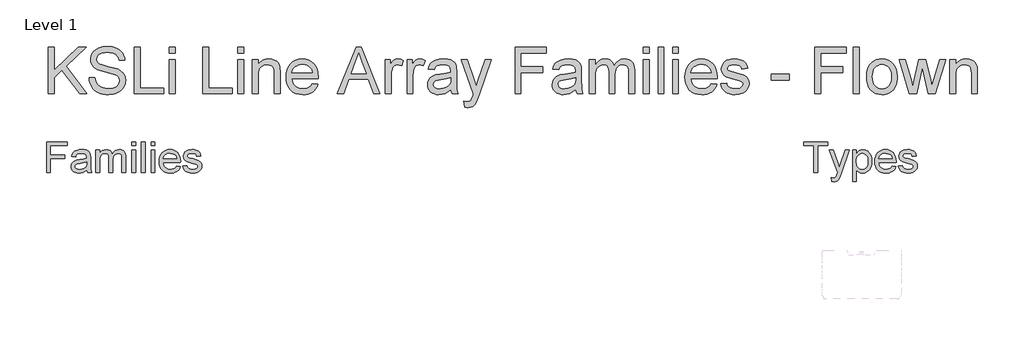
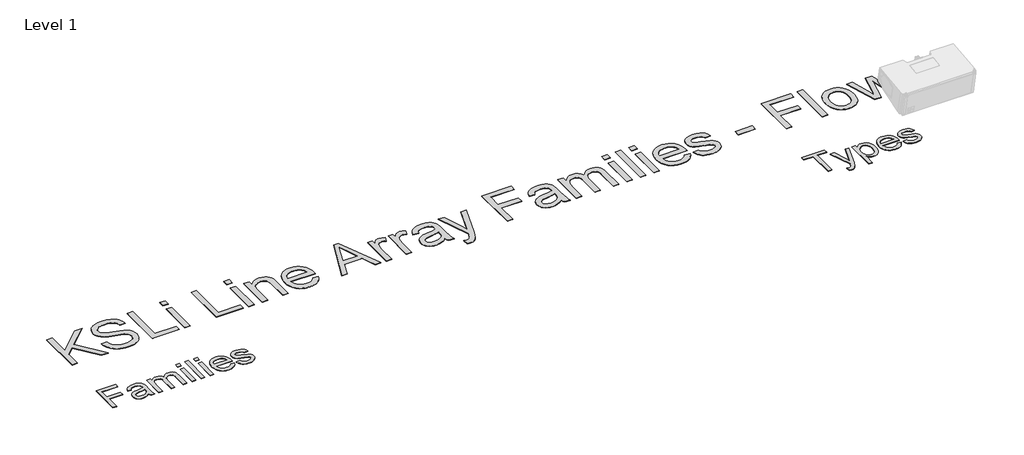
# One storey, part 43 of 52: 3 proxies.
"""IFC4 building model written with IfcOpenShell, lengths in millimetres."""

from ifc_helpers import new_model, si_unit, origin, origin_with_axes, place, context, project, spatial, polyline, outline, extrude, element, save

model = new_model("IFC4")

# Units and contexts
model_context = context("Model", 3, world=origin())
ifc_project = project(units=[si_unit("LENGTHUNIT", "METRE", prefix="MILLI")], contexts=[model_context])

# Site, building, storey
site = spatial("IfcSite", under=ifc_project)
building = spatial("IfcBuilding", under=site)
storey = spatial("IfcBuildingStorey", under=building, Name="Level 1", Elevation=0.0)

# Proxies
placement = place(None, origin())
element("IfcBuildingElementProxy", 1, Name="400mm Arial", ObjectType="400mm Arial", at=placement, inside=storey, context=model_context, shape_type="SweptSolid", body=[
    extrude(outline(polyline([(5943.279109, -3067.5695164), (5943.279109, -2675.8119407), (6206.4912302, -2675.8119407), (6206.4912302, -2724.7816376), (5992.2488059, -2724.7816376), (5992.2488059, -2841.0846679), (6175.8851696, -2841.0846679), (6175.8851696, -2890.0543649), (5992.2488059, -2890.0543649), (5992.2488059, -3067.5695164), (5943.279109, -3067.5695164)])), origin_with_axes(), (0.0, 0.0, 1.0), 5.0),
    extrude(outline(polyline([(6451.339715, -3030.8422437), (6427.9428164, -3050.90356), (6403.8524991, -3064.0306907), (6378.5188107, -3071.2757191), (6351.3917984, -3073.6907285), (6329.5879691, -3072.2381362), (6310.4681478, -3067.8803592), (6294.0323346, -3060.6173976), (6280.2805294, -3050.4492513), (6269.4219534, -3038.0215169), (6261.6658277, -3023.979791), (6257.0121523, -3008.3240737), (6255.4609271, -2991.0543649), (6257.8042037, -2970.7539388), (6264.8340332, -2952.3185695), (6275.6776648, -2936.5373195), (6289.4623476, -2924.1992513), (6323.7506999, -2908.1310695), (6366.120965, -2900.7664861), (6416.1905673, -2893.019327), (6451.0527832, -2883.9331528), (6451.339715, -2873.0297437), (6447.9682662, -2851.1751035), (6437.8539196, -2836.8763346), (6415.2341279, -2826.2598573), (6383.7194499, -2822.7210316), (6354.5480484, -2825.0762636), (6334.1758893, -2832.1419596), (6320.2836071, -2845.2093128), (6310.5518362, -2865.5695164), (6261.5821393, -2859.4483043), (6270.0824944, -2832.6680013), (6282.7672718, -2811.6263346), (6300.8200654, -2795.5342418), (6325.4244688, -2783.6026604), (6355.5164432, -2776.214166), (6390.0319499, -2773.7513346), (6423.1367084, -2775.9272342), (6449.3790143, -2782.4549331), (6469.1653542, -2792.2703924), (6482.902215, -2804.3095732), (6492.0123003, -2819.1941613), (6497.9183135, -2837.5458422), (6500.309412, -2880.394327), (6500.309412, -2941.3195164), (6502.7961544, -3026.3948005), (6512.5518362, -3067.5695164), (6463.5821393, -3067.5695164), (6455.7393362, -3050.5448952), (6451.339715, -3030.8422437)]), holes=[polyline([(6451.339715, -2932.9028498), (6418.4381999, -2941.0564956), (6372.3378211, -2947.9189482), (6330.2066658, -2955.8573952), (6319.2434792, -2961.2851888), (6311.1256999, -2968.769327), (6306.1043931, -2977.7359464), (6304.4306241, -2987.6111831), (6308.0770493, -3002.1729729), (6319.0163249, -3014.1045543), (6337.009341, -3022.0669123), (6361.8169878, -3024.7210316), (6388.1190711, -3021.7919359), (6411.3605484, -3013.004649), (6430.2024044, -3000.0568507), (6443.3056241, -2984.646221), (6449.1159934, -2968.769327), (6451.0527832, -2946.771221), (6451.339715, -2932.9028498)])]), origin_with_axes(), (0.0, 0.0, 1.0), 5.0),
    extrude(outline(polyline([(6567.6427453, -3067.5695164), (6567.6427453, -2779.8725467), (6616.6124423, -2779.8725467), (6616.6124423, -2827.2162967), (6631.341609, -2805.469256), (6650.279109, -2788.4326793), (6672.7793457, -2777.4216708), (6698.1967226, -2773.7513346), (6725.4313343, -2777.4934037), (6747.2620635, -2788.7196111), (6763.5693552, -2806.6887162), (6774.2336544, -2830.6594785), (6792.0832046, -2805.7621656), (6812.4434082, -2787.9783706), (6835.3142652, -2777.3080936), (6860.6957756, -2773.7513346), (6880.2997943, -2775.2308268), (6897.5067368, -2779.6693034), (6912.316603, -2787.0667643), (6924.7293931, -2797.4232096), (6934.5418635, -2810.8581942), (6941.5507709, -2827.4912731), (6945.7561154, -2847.3224461), (6947.1578968, -2870.3517134), (6947.1578968, -3067.5695164), (6898.1881999, -3067.5695164), (6898.1881999, -2891.3933801), (6893.6451128, -2850.505596), (6887.2608798, -2839.2315666), (6877.1943552, -2830.3725467), (6864.2465569, -2824.6339104), (6849.2185029, -2822.7210316), (6822.6892652, -2827.6227835), (6801.0617794, -2842.3280392), (6792.6720126, -2853.6080463), (6786.679322, -2867.84106), (6781.8851696, -2905.1661073), (6781.8851696, -3067.5695164), (6732.9154726, -3067.5695164), (6732.9154726, -2885.9416755), (6730.0820209, -2858.2527551), (6721.5816658, -2838.5022816), (6706.6253448, -2826.6663441), (6684.4239953, -2822.7210316), (6665.5582283, -2825.3512399), (6648.1749423, -2833.2418649), (6633.8283514, -2846.2016187), (6624.0726696, -2864.0392134), (6618.4774991, -2888.7870827), (6616.6124423, -2922.4776604), (6616.6124423, -3067.5695164), (6567.6427453, -3067.5695164)])), origin_with_axes(), (0.0, 0.0, 1.0), 5.0),
    extrude(outline(polyline([(7020.6124423, -2724.7816376), (7020.6124423, -2675.8119407), (7069.5821393, -2675.8119407), (7069.5821393, -2724.7816376), (7020.6124423, -2724.7816376)])), origin_with_axes(), (0.0, 0.0, 1.0), 5.0),
    extrude(outline(polyline([(7020.6124423, -3067.5695164), (7020.6124423, -2779.8725467), (7069.5821393, -2779.8725467), (7069.5821393, -3067.5695164), (7020.6124423, -3067.5695164)])), origin_with_axes(), (0.0, 0.0, 1.0), 5.0),
    extrude(outline(polyline([(7143.0366847, -3067.5695164), (7143.0366847, -2675.8119407), (7192.0063817, -2675.8119407), (7192.0063817, -3067.5695164), (7143.0366847, -3067.5695164)])), origin_with_axes(), (0.0, 0.0, 1.0), 5.0),
    extrude(outline(polyline([(7265.4609271, -2724.7816376), (7265.4609271, -2675.8119407), (7314.4306241, -2675.8119407), (7314.4306241, -2724.7816376), (7265.4609271, -2724.7816376)])), origin_with_axes(), (0.0, 0.0, 1.0), 5.0),
    extrude(outline(polyline([(7265.4609271, -3067.5695164), (7265.4609271, -2779.8725467), (7314.4306241, -2779.8725467), (7314.4306241, -3067.5695164), (7265.4609271, -3067.5695164)])), origin_with_axes(), (0.0, 0.0, 1.0), 5.0),
    extrude(outline(polyline([(7589.3113059, -2981.8725467), (7637.3245635, -2987.9937589), (7629.9629691, -3007.2241684), (7620.024966, -3024.1710789), (7607.5105543, -3038.8344904), (7592.419734, -3051.2144028), (7574.9079264, -3061.0477953), (7555.1305531, -3068.0716471), (7508.779109, -3073.6907285), (7478.394225, -3071.2667525), (7451.3210124, -3063.9948242), (7427.5594712, -3051.8749437), (7407.1096014, -3034.9071111), (7390.6648216, -3013.5635683), (7378.9185503, -2988.3165571), (7371.8707875, -2959.1660777), (7369.5215332, -2926.1121301), (7371.8946985, -2891.937355), (7379.0141942, -2861.8154918), (7390.8800204, -2835.7465406), (7407.4921771, -2813.7305013), (7427.8882472, -2796.2396159), (7451.1058135, -2783.7461263), (7477.144876, -2776.2500325), (7506.0054347, -2773.7513346), (7533.9364539, -2776.2440548), (7559.1954205, -2783.7222153), (7581.7823346, -2796.1858161), (7601.6971961, -2813.6348573), (7617.9536769, -2835.6030747), (7629.5654489, -2861.6242039), (7636.5325121, -2891.6982451), (7638.8548665, -2925.8251982), (7638.5679347, -2939.0240619), (7418.4912302, -2939.0240619), (7421.3276708, -2958.5653142), (7426.9676743, -2975.6796017), (7435.4112408, -2990.3669241), (7446.6583703, -3002.6272816), (7475.0765758, -3019.1975941), (7509.7355484, -3024.7210316), (7535.7985218, -3022.1625562), (7557.7488059, -3014.4871301), (7575.5864006, -3001.2165335), (7589.3113059, -2981.8725467)]), holes=[polyline([(7418.4912302, -2890.0543649), (7589.8851696, -2890.0543649), (7583.2618268, -2864.1826793), (7570.278162, -2845.675577), (7556.923877, -2835.6329634), (7541.7284461, -2828.4596679), (7505.8141468, -2822.7210316), (7472.8050323, -2827.2999852), (7445.5106431, -2841.036846), (7426.5372766, -2862.4491329), (7418.4912302, -2890.0543649)])]), origin_with_axes(), (0.0, 0.0, 1.0), 5.0),
    extrude(outline(polyline([(7669.4609271, -2981.8725467), (7718.4306241, -2975.7513346), (7726.1538722, -2996.6973573), (7741.0982378, -3012.0960316), (7763.3593646, -3021.5647816), (7793.0328968, -3024.7210316), (7822.3477643, -3021.8278024), (7842.9590332, -3013.1481149), (7855.1536355, -3000.5709369), (7859.2185029, -2985.9852361), (7855.1297245, -2973.503702), (7842.8633893, -2963.9871301), (7792.4590332, -2950.0231149), (7718.7175559, -2926.0643081), (7700.0550323, -2914.0251272), (7686.5333703, -2898.0884558), (7678.319947, -2879.2705107), (7675.5821393, -2858.5875089), (7677.7819499, -2839.6141424), (7684.3813817, -2822.099346), (7694.7826601, -2806.7365382), (7708.3880105, -2794.2191376), (7739.5201128, -2779.7290808), (7781.6512681, -2773.7513346), (7813.5246109, -2776.1543886), (7841.2374423, -2783.3635505), (7863.5224802, -2794.6734464), (7879.1124423, -2809.378702), (7889.4419878, -2828.5672674), (7895.9457756, -2853.3270922), (7846.9760787, -2859.4483043), (7840.7950891, -2844.0376746), (7828.5646203, -2832.4288914), (7810.1651175, -2825.1479965), (7785.4770256, -2822.7210316), (7757.3577075, -2825.0403971), (7738.6114953, -2831.9984937), (7728.066751, -2842.0411073), (7724.5518362, -2853.614024), (7730.3861165, -2867.864971), (7748.654109, -2878.6727361), (7790.8330862, -2889.0979255), (7862.7095067, -2912.1481149), (7881.6948287, -2923.1710789), (7896.0892415, -2938.2589104), (7905.1634603, -2957.4594312), (7908.1881999, -2980.8204634), (7904.6374186, -3004.9705581), (7893.9850749, -3027.6859937), (7876.6376554, -3047.1854018), (7853.0016468, -3061.6874142), (7824.4519309, -3070.6899), (7792.3633893, -3073.6907285), (7766.0075062, -3072.244114), (7742.9872056, -3067.9042702), (7723.3024873, -3060.6711973), (7706.9533514, -3050.5448952), (7693.5990664, -3037.5731859), (7682.8989006, -3021.8038914), (7674.8528542, -3003.2370117), (7669.4609271, -2981.8725467)])), origin_with_axes(), (0.0, 0.0, 1.0), 5.0),
])
element("IfcBuildingElementProxy", 2, Name="400mm Arial", ObjectType="400mm Arial", at=placement, inside=storey, context=model_context, shape_type="SweptSolid", body=[
    extrude(outline(polyline([(15654.0416973, -3067.5695164), (15654.0416973, -2724.7816376), (15525.4962428, -2724.7816376), (15525.4962428, -2675.8119407), (15831.5568488, -2675.8119407), (15831.5568488, -2724.7816376), (15703.0113943, -2724.7816376), (15703.0113943, -3067.5695164), (15654.0416973, -3067.5695164)])), origin_with_axes(), (0.0, 0.0, 1.0), 5.0),
    extrude(outline(polyline([(15880.5265458, -3177.7513346), (15874.4053337, -3130.5988725), (15899.2727579, -3134.9028498), (15912.3520666, -3133.5518791), (15922.5142352, -3129.4989672), (15936.7651821, -3114.4350467), (15950.1553337, -3078.3772816), (15953.9810912, -3066.5174331), (15849.9204852, -2779.8725467), (15901.5682125, -2779.8725467), (15956.7547655, -2939.5979255), (15975.9791973, -3003.488077), (15995.2036291, -2947.0581528), (16051.9204852, -2779.8725467), (16103.1856367, -2779.8725467), (16003.0464321, -3074.4558801), (15977.0312806, -3138.3460316), (15963.7128621, -3158.7421017), (15948.6250306, -3172.8734937), (15931.0982787, -3181.1227835), (15910.4630988, -3183.8725467), (15880.5265458, -3177.7513346)])), origin_with_axes(), (0.0, 0.0, 1.0), 5.0),
    extrude(outline(polyline([(16143.738667, -3177.7513346), (16143.738667, -2779.8725467), (16192.708364, -2779.8725467), (16192.708364, -2827.8858043), (16208.6809018, -2804.2019738), (16226.5663185, -2787.284952), (16247.4166973, -2777.134739), (16272.2841215, -2773.7513346), (16305.4008356, -2778.4857096), (16334.3570382, -2792.6888346), (16357.9332693, -2815.4999142), (16374.9100685, -2846.0581528), (16385.167881, -2882.1398289), (16388.5871518, -2921.521221), (16384.7255278, -2963.4013109), (16373.1406556, -3000.8578687), (16354.2031556, -3031.989971), (16328.2836481, -3054.8966945), (16298.0960297, -3068.99222), (16266.3541973, -3073.6907285), (16243.8420051, -3070.546434), (16223.7448223, -3061.1135505), (16206.5408687, -3046.874559), (16192.708364, -3029.3119407), (16192.708364, -3177.7513346), (16143.738667, -3177.7513346)]), holes=[polyline([(16192.708364, -2926.0164861), (16198.0046471, -2969.9170543), (16204.625001, -2986.9177645), (16213.8934965, -3000.6187589), (16237.3382172, -3018.6954634), (16250.7552686, -3023.2146395), (16265.302114, -3024.7210316), (16280.0581805, -3023.1608398), (16293.7203195, -3018.4802645), (16317.7628147, -2999.7579634), (16327.3242198, -2985.5608161), (16334.1537948, -2967.9324426), (16339.6174549, -2922.3820164), (16334.2853053, -2878.7205581), (16327.6201182, -2861.5883375), (16318.2888564, -2847.5884558), (16294.8800022, -2828.9378876), (16281.6153834, -2824.2752456), (16267.3106367, -2822.7210316), (16253.0507231, -2824.3738784), (16239.6336717, -2829.3324189), (16215.3281556, -2849.1665808), (16205.4319968, -2863.8867809), (16198.3633119, -2881.6018318), (16194.1221009, -2902.3117335), (16192.708364, -2926.0164861)])]), origin_with_axes(), (0.0, 0.0, 1.0), 5.0),
    extrude(outline(polyline([(16645.1041973, -2981.8725467), (16693.1174549, -2987.9937589), (16685.7558604, -3007.2241684), (16675.8178573, -3024.1710789), (16663.3034456, -3038.8344904), (16648.2126253, -3051.2144028), (16630.7008178, -3061.0477953), (16610.9234445, -3068.0716471), (16564.5720003, -3073.6907285), (16534.1871163, -3071.2667525), (16507.1139037, -3063.9948242), (16483.3523625, -3051.8749437), (16462.9024928, -3034.9071111), (16446.4577129, -3013.5635683), (16434.7114416, -2988.3165571), (16427.6636788, -2959.1660777), (16425.3144246, -2926.1121301), (16427.6875898, -2891.937355), (16434.8070856, -2861.8154918), (16446.6729118, -2835.7465406), (16463.2850685, -2813.7305013), (16483.6811386, -2796.2396159), (16506.8987049, -2783.7461263), (16532.9377674, -2776.2500325), (16561.7983261, -2773.7513346), (16589.7293453, -2776.2440548), (16614.9883119, -2783.7222153), (16637.5752259, -2796.1858161), (16657.4900875, -2813.6348573), (16673.7465683, -2835.6030747), (16685.3583403, -2861.6242039), (16692.3254035, -2891.6982451), (16694.6477579, -2925.8251982), (16694.3608261, -2939.0240619), (16474.2841215, -2939.0240619), (16477.1205621, -2958.5653142), (16482.7605657, -2975.6796017), (16491.2041322, -2990.3669241), (16502.4512617, -3002.6272816), (16530.8694672, -3019.1975941), (16565.5284397, -3024.7210316), (16591.5914132, -3022.1625562), (16613.5416973, -3014.4871301), (16631.379292, -3001.2165335), (16645.1041973, -2981.8725467)]), holes=[polyline([(16474.2841215, -2890.0543649), (16645.6780609, -2890.0543649), (16639.0547181, -2864.1826793), (16626.0710534, -2845.675577), (16612.7167683, -2835.6329634), (16597.5213375, -2828.4596679), (16561.6070382, -2822.7210316), (16528.5979236, -2827.2999852), (16501.3035344, -2841.036846), (16482.3301679, -2862.4491329), (16474.2841215, -2890.0543649)])]), origin_with_axes(), (0.0, 0.0, 1.0), 5.0),
    extrude(outline(polyline([(16725.2538185, -2981.8725467), (16774.2235155, -2975.7513346), (16781.9467636, -2996.6973573), (16796.8911291, -3012.0960316), (16819.152256, -3021.5647816), (16848.8257882, -3024.7210316), (16878.1406556, -3021.8278024), (16898.7519246, -3013.1481149), (16910.9465268, -3000.5709369), (16915.0113943, -2985.9852361), (16910.9226159, -2973.503702), (16898.6562806, -2963.9871301), (16848.2519246, -2950.0231149), (16774.5104473, -2926.0643081), (16755.8479236, -2914.0251272), (16742.3262617, -2898.0884558), (16734.1128384, -2879.2705107), (16731.3750306, -2858.5875089), (16733.5748412, -2839.6141424), (16740.1742731, -2822.099346), (16750.5755515, -2806.7365382), (16764.1809018, -2794.2191376), (16795.3130041, -2779.7290808), (16837.4441594, -2773.7513346), (16869.3175022, -2776.1543886), (16897.0303337, -2783.3635505), (16919.3153715, -2794.6734464), (16934.9053337, -2809.378702), (16945.2348791, -2828.5672674), (16951.738667, -2853.3270922), (16902.76897, -2859.4483043), (16896.5879804, -2844.0376746), (16884.3575117, -2832.4288914), (16865.9580089, -2825.1479965), (16841.269917, -2822.7210316), (16813.1505988, -2825.0403971), (16794.4043867, -2831.9984937), (16783.8596424, -2842.0411073), (16780.3447276, -2853.614024), (16786.1790079, -2867.864971), (16804.4470003, -2878.6727361), (16846.6259776, -2889.0979255), (16918.5023981, -2912.1481149), (16937.48772, -2923.1710789), (16951.8821329, -2938.2589104), (16960.9563517, -2957.4594312), (16963.9810912, -2980.8204634), (16960.43031, -3004.9705581), (16949.7779662, -3027.6859937), (16932.4305467, -3047.1854018), (16908.7945382, -3061.6874142), (16880.2448223, -3070.6899), (16848.1562806, -3073.6907285), (16821.8003976, -3072.244114), (16798.7800969, -3067.9042702), (16779.0953786, -3060.6711973), (16762.7462428, -3050.5448952), (16749.3919577, -3037.5731859), (16738.691792, -3021.8038914), (16730.6457456, -3003.2370117), (16725.2538185, -2981.8725467)])), origin_with_axes(), (0.0, 0.0, 1.0), 5.0),
])
element("IfcBuildingElementProxy", 3, Name="600mm Arial", ObjectType="600mm Arial", at=placement, inside=storey, context=model_context, shape_type="SweptSolid", body=[
    extrude(outline(polyline([(5965.0460087, -2067.5695164), (5965.0460087, -1476.8002857), (6038.8921626, -1476.8002857), (6038.8921626, -1765.982978), (6341.776778, -1476.8002857), (6445.0460087, -1476.8002857), (6190.7671626, -1719.684901), (6454.276778, -2067.5695164), (6363.9883164, -2067.5695164), (6138.4113933, -1769.5887472), (6038.8921626, -1864.4925934), (6038.8921626, -2067.5695164), (5965.0460087, -2067.5695164)])), origin_with_axes(), (0.0, 0.0, 1.0), 5.0),
    extrude(outline(polyline([(6481.9690857, -1864.4925934), (6555.8152395, -1864.4925934), (6564.2887972, -1905.4721607), (6579.6133164, -1938.4108626), (6603.5195664, -1964.5526895), (6637.7383164, -1985.1416318), (6679.5652395, -1998.5010068), (6726.2960087, -2002.9541318), (6767.4378357, -1999.5827376), (6803.4594703, -1989.4685549), (6832.6481722, -1973.4589395), (6853.291201, -1952.4012472), (6865.5688453, -1928.2245645), (6869.6613933, -1902.857978), (6866.5964895, -1878.1404299), (6857.401778, -1856.7762472), (6838.7238933, -1838.5490837), (6807.2094703, -1823.2425934), (6699.6854318, -1795.045478), (6629.1024991, -1776.3856222), (6583.9402395, -1758.6272087), (6547.1794222, -1733.7834587), (6521.1277395, -1703.6752857), (6505.604903, -1668.951728), (6500.4306241, -1630.2618241), (6502.0306842, -1608.271139), (6506.8308645, -1587.0106222), (6514.831165, -1566.4802736), (6526.0315857, -1546.6800934), (6540.3059246, -1528.4168722), (6557.5279799, -1512.497401), (6577.6977515, -1498.9216799), (6600.8152395, -1487.6897087), (6652.7743741, -1472.5995645), (6710.2863933, -1467.5695164), (6772.5940857, -1472.8339395), (6827.1133164, -1488.6272087), (6850.9654799, -1500.3910309), (6871.8969703, -1514.6248049), (6889.9077876, -1531.3285309), (6904.9979318, -1550.5022087), (6917.0502155, -1571.5869443), (6925.947451, -1594.0238434), (6931.6896385, -1617.8129059), (6934.276778, -1642.9541318), (6860.4306241, -1642.9541318), (6855.4907203, -1619.3904299), (6846.8729318, -1598.8916318), (6834.5772587, -1581.4577376), (6818.603701, -1567.0887472), (6798.6547828, -1555.856776), (6774.433028, -1547.8339395), (6745.9384366, -1543.0202376), (6713.1710087, -1541.4156703), (6679.3579078, -1543.0022087), (6650.4666818, -1547.7618241), (6626.4973308, -1555.6945164), (6607.4498549, -1566.8002857), (6592.9366337, -1580.1506462), (6582.5700472, -1594.8171126), (6576.3500953, -1610.7996847), (6574.276778, -1628.0983626), (6580.1541818, -1656.4757664), (6597.7863933, -1679.3002857), (6613.9762972, -1689.450526), (6639.4690857, -1699.7089395), (6718.3633164, -1720.5502857), (6799.7815857, -1740.3459587), (6849.0363933, -1757.6175934), (6891.1337491, -1784.4084587), (6907.40929, -1800.1566559), (6920.5027395, -1817.4733626), (6930.5673429, -1836.2684347), (6937.7563453, -1856.451728), (6943.5075472, -1900.982978), (6941.8534006, -1924.0824371), (6936.8909607, -1946.5058145), (6928.6202275, -1968.2531102), (6917.041201, -1989.3243241), (6902.3567058, -2008.903651), (6884.7695664, -2026.1752857), (6864.2797828, -2041.139228), (6840.8873549, -2053.795478), (6815.2728717, -2063.8600813), (6788.1169222, -2071.0490837), (6729.1806241, -2076.8002857), (6691.4056842, -2075.2498049), (6656.8308645, -2070.5983626), (6625.456165, -2062.8459587), (6597.2815857, -2051.9925934), (6572.1358525, -2038.0202376), (6549.8476914, -2020.9108626), (6530.4171025, -2000.6644684), (6513.8440857, -1977.2810549), (6500.4937251, -1951.5178337), (6490.7311049, -1924.1320164), (6484.5562251, -1895.123603), (6481.9690857, -1864.4925934)])), origin_with_axes(), (0.0, 0.0, 1.0), 5.0),
    extrude(outline(polyline([(7054.276778, -2067.5695164), (7054.276778, -1476.8002857), (7128.1229318, -1476.8002857), (7128.1229318, -1993.7233626), (7423.5075472, -1993.7233626), (7423.5075472, -2067.5695164), (7054.276778, -2067.5695164)])), origin_with_axes(), (0.0, 0.0, 1.0), 5.0),
    extrude(outline(polyline([(7497.353701, -2067.5695164), (7497.353701, -1633.7233626), (7571.1998549, -1633.7233626), (7571.1998549, -2067.5695164), (7497.353701, -2067.5695164)])), origin_with_axes(), (0.0, 0.0, 1.0), 5.0),
    extrude(outline(polyline([(7497.353701, -1550.6464395), (7497.353701, -1476.8002857), (7571.1998549, -1476.8002857), (7571.1998549, -1550.6464395), (7497.353701, -1550.6464395)])), origin_with_axes(), (0.0, 0.0, 1.0), 5.0),
    extrude(outline(polyline([(7921.9690857, -2067.5695164), (7921.9690857, -1476.8002857), (7995.8152395, -1476.8002857), (7995.8152395, -1993.7233626), (8291.1998549, -1993.7233626), (8291.1998549, -2067.5695164), (7921.9690857, -2067.5695164)])), origin_with_axes(), (0.0, 0.0, 1.0), 5.0),
    extrude(outline(polyline([(8365.0460087, -2067.5695164), (8365.0460087, -1633.7233626), (8438.8921626, -1633.7233626), (8438.8921626, -2067.5695164), (8365.0460087, -2067.5695164)])), origin_with_axes(), (0.0, 0.0, 1.0), 5.0),
    extrude(outline(polyline([(8365.0460087, -1550.6464395), (8365.0460087, -1476.8002857), (8438.8921626, -1476.8002857), (8438.8921626, -1550.6464395), (8365.0460087, -1550.6464395)])), origin_with_axes(), (0.0, 0.0, 1.0), 5.0),
    extrude(outline(polyline([(8549.6613933, -2067.5695164), (8549.6613933, -1633.7233626), (8623.5075472, -1633.7233626), (8623.5075472, -1694.3002857), (8649.1625953, -1663.7594203), (8679.9738933, -1641.9445164), (8715.9414414, -1628.8555741), (8757.0652395, -1624.4925934), (8793.4654799, -1628.0082184), (8826.8008164, -1638.5550934), (8854.6012972, -1654.8171126), (8874.3969703, -1675.4781703), (8887.8284607, -1700.4841799), (8896.5363933, -1729.7810549), (8900.4306241, -1801.1752857), (8900.4306241, -2067.5695164), (8826.5844703, -2067.5695164), (8826.5844703, -1811.1272087), (8824.4570664, -1772.9421126), (8818.0748549, -1745.7906703), (8806.3020183, -1726.3375453), (8788.0027395, -1711.247401), (8764.5472107, -1701.5659107), (8737.3056241, -1698.3387472), (8714.8822467, -1700.1506462), (8694.0544222, -1705.5863434), (8674.8221506, -1714.6458385), (8657.1854318, -1727.3291318), (8642.4513573, -1745.0785309), (8631.9270183, -1769.3363434), (8625.612415, -1800.1025693), (8623.5075472, -1837.3772087), (8623.5075472, -2067.5695164), (8549.6613933, -2067.5695164)])), origin_with_axes(), (0.0, 0.0, 1.0), 5.0),
    extrude(outline(polyline([(9305.7190857, -1938.3387472), (9378.1229318, -1947.5695164), (9367.0216698, -1976.5689155), (9352.0351914, -2002.1248049), (9333.1634967, -2024.2371847), (9310.4065857, -2042.9060549), (9283.9988333, -2057.7347809), (9254.1746145, -2068.326728), (9220.9339294, -2074.6818962), (9184.276778, -2076.8002857), (9138.4564655, -2073.1449371), (9097.6301433, -2062.1788914), (9061.7978116, -2043.9021486), (9030.9594703, -2018.3147087), (9006.1607924, -1986.1287111), (8988.447451, -1948.0562953), (8977.8194462, -1904.0974611), (8974.276778, -1854.2522087), (8977.8555039, -1802.716752), (8988.5916818, -1757.2930741), (9006.4853116, -1717.9811751), (9031.5363933, -1684.7810549), (9062.2936049, -1658.404853), (9097.3056241, -1639.5647087), (9136.572451, -1628.2606222), (9180.0940857, -1624.4925934), (9222.2139775, -1628.2516078), (9260.3044222, -1639.528651), (9294.3654198, -1658.3237232), (9324.3969703, -1684.6368241), (9348.9116938, -1717.7648289), (9366.4222107, -1757.0046126), (9376.9285208, -1802.3561751), (9380.4306241, -1853.8195164), (9379.9979318, -1873.7233626), (9048.1229318, -1873.7233626), (9052.4002756, -1903.1915116), (9060.9053837, -1928.9998049), (9073.6382563, -1951.1482424), (9090.5988933, -1969.6368241), (9110.8497948, -1984.2131462), (9133.4534607, -1994.6248049), (9158.4098909, -2000.8718001), (9185.7190857, -2002.9541318), (9225.0219703, -1999.0959587), (9258.1229318, -1987.5214395), (9285.0219703, -1967.5094203), (9305.7190857, -1938.3387472)]), holes=[polyline([(9048.1229318, -1799.8772087), (9306.5844703, -1799.8772087), (9296.5964895, -1760.8627857), (9288.0057443, -1745.5202376), (9277.0171626, -1732.9541318), (9256.8789414, -1717.809901), (9233.964278, -1706.9925934), (9208.2731722, -1700.5022087), (9179.8056241, -1698.3387472), (9153.8395784, -1700.0650092), (9130.0279799, -1705.2437953), (9108.3708284, -1713.8751054), (9088.8681241, -1725.9589395), (9072.502439, -1740.9364034), (9060.2563453, -1758.248603), (9052.1298429, -1777.8955381), (9048.1229318, -1799.8772087)])]), origin_with_axes(), (0.0, 0.0, 1.0), 5.0),
    extrude(outline(polyline([(9625.478701, -2067.5695164), (9861.2960087, -1476.8002857), (9924.1806241, -1476.8002857), (10159.9979318, -2067.5695164), (10081.9690857, -2067.5695164), (10014.3248549, -1882.9541318), (9771.0075472, -1882.9541318), (9703.5075472, -2067.5695164), (9625.478701, -2067.5695164)]), holes=[polyline([(9798.1229318, -1809.107978), (9987.353701, -1809.107978), (9934.1325472, -1663.8675934), (9892.7383164, -1550.6464395), (9855.9594703, -1651.1752857), (9798.1229318, -1809.107978)])]), origin_with_axes(), (0.0, 0.0, 1.0), 5.0),
    extrude(outline(polyline([(10229.6613933, -2067.5695164), (10229.6613933, -1633.7233626), (10294.276778, -1633.7233626), (10294.276778, -1697.9060549), (10318.1469703, -1660.6945164), (10340.1421626, -1638.7714395), (10362.2094703, -1628.0623049), (10386.2960087, -1624.4925934), (10423.0748549, -1630.1897087), (10460.4306241, -1647.2810549), (10435.7671626, -1713.482978), (10409.8056241, -1702.1248049), (10383.8440857, -1698.3387472), (10361.7948068, -1701.9805741), (10342.089278, -1712.9060549), (10326.1698068, -1730.2858626), (10315.478701, -1753.2906703), (10306.5003357, -1794.5406703), (10303.5075472, -1839.5406703), (10303.5075472, -2067.5695164), (10229.6613933, -2067.5695164)])), origin_with_axes(), (0.0, 0.0, 1.0), 5.0),
    extrude(outline(polyline([(10506.5844703, -2067.5695164), (10506.5844703, -1633.7233626), (10571.1998549, -1633.7233626), (10571.1998549, -1697.9060549), (10595.0700472, -1660.6945164), (10617.0652395, -1638.7714395), (10639.1325472, -1628.0623049), (10663.2190857, -1624.4925934), (10699.9979318, -1630.1897087), (10737.353701, -1647.2810549), (10712.6902395, -1713.482978), (10686.728701, -1702.1248049), (10660.7671626, -1698.3387472), (10638.7178837, -1701.9805741), (10619.0123549, -1712.9060549), (10603.0928837, -1730.2858626), (10592.401778, -1753.2906703), (10583.4234126, -1794.5406703), (10580.4306241, -1839.5406703), (10580.4306241, -2067.5695164), (10506.5844703, -2067.5695164)])), origin_with_axes(), (0.0, 0.0, 1.0), 5.0),
    extrude(outline(polyline([(11060.4306241, -2012.184901), (11025.1481722, -2042.4373049), (10988.8200472, -2062.232978), (10950.6169222, -2073.1584587), (10909.7094703, -2076.8002857), (10876.8293621, -2074.6097809), (10847.9967299, -2068.0382664), (10823.2115736, -2057.0857424), (10802.4738933, -2041.7522087), (10786.0991938, -2023.0112232), (10774.4029799, -2001.8363434), (10767.3852515, -1978.2275693), (10765.0460087, -1952.184901), (10768.5796626, -1921.5719203), (10779.1806241, -1893.7714395), (10795.5327876, -1869.9733626), (10816.3200472, -1851.3675934), (10840.7491337, -1837.3050934), (10868.026778, -1827.1368241), (10931.9210087, -1816.0310549), (11007.4258164, -1804.3483626), (11059.9979318, -1790.6464395), (11060.4306241, -1774.2041318), (11055.3464895, -1741.247401), (11048.9913212, -1729.0418722), (11040.0940857, -1719.684901), (11024.7154799, -1710.3459587), (11005.9835087, -1703.6752857), (10958.4594703, -1698.3387472), (10914.4690857, -1701.8904299), (10883.7479318, -1712.545478), (10862.7984126, -1732.2510068), (10848.1229318, -1762.9541318), (10774.276778, -1753.7233626), (10787.0952876, -1713.3387472), (10806.2238933, -1681.607978), (10833.447451, -1657.341151), (10870.5508164, -1639.3483626), (10915.9294222, -1628.2065357), (10967.978701, -1624.4925934), (11017.900576, -1627.7738434), (11057.4738933, -1637.6175934), (11087.3116337, -1652.419276), (11108.026778, -1670.5743241), (11121.7647587, -1693.0202376), (11130.6710087, -1720.6945164), (11134.276778, -1785.309901), (11134.276778, -1877.184901), (11138.026778, -2005.4781703), (11143.5796626, -2037.1909107), (11152.7383164, -2067.5695164), (11078.8921626, -2067.5695164), (11067.0652395, -2041.8964395), (11060.4306241, -2012.184901)]), holes=[polyline([(11060.4306241, -1864.4925934), (11010.8152395, -1876.7882664), (10941.2960087, -1887.1368241), (10877.7623549, -1899.107978), (10861.229903, -1907.2930741), (10848.9883164, -1918.5791318), (10841.416201, -1932.1007664), (10838.8921626, -1946.9925934), (10844.3909607, -1968.951728), (10860.8873549, -1986.9445164), (10888.0207683, -1998.951728), (10925.4306241, -2002.9541318), (10965.0940857, -1998.5370645), (11000.1421626, -1985.2858626), (11028.5556241, -1965.7606222), (11048.3152395, -1942.5214395), (11057.0772587, -1918.5791318), (11059.9979318, -1885.4060549), (11060.4306241, -1864.4925934)])]), origin_with_axes(), (0.0, 0.0, 1.0), 5.0),
    extrude(outline(polyline([(11235.8152395, -2233.7233626), (11226.5844703, -2162.6175934), (11264.0844703, -2169.107978), (11283.808028, -2167.0707184), (11299.1325472, -2160.9589395), (11311.0676433, -2151.2053337), (11320.6229318, -2138.2425934), (11340.8152395, -2083.8675934), (11346.5844703, -2065.982978), (11189.6613933, -1633.7233626), (11267.5460087, -1633.7233626), (11350.7671626, -1874.5887472), (11379.7575472, -1970.934901), (11408.7479318, -1885.8387472), (11494.276778, -1633.7233626), (11571.5844703, -1633.7233626), (11420.5748549, -2077.9541318), (11381.3440857, -2174.3002857), (11361.259951, -2205.0574972), (11338.5075472, -2226.3675934), (11312.0772587, -2238.8074972), (11280.9594703, -2242.9541318), (11259.5772587, -2240.6464395), (11235.8152395, -2233.7233626)])), origin_with_axes(), (0.0, 0.0, 1.0), 5.0),
    extrude(outline(polyline([(11872.7383164, -2067.5695164), (11872.7383164, -1476.8002857), (12269.6613933, -1476.8002857), (12269.6613933, -1550.6464395), (11946.5844703, -1550.6464395), (11946.5844703, -1726.0310549), (12223.5075472, -1726.0310549), (12223.5075472, -1799.8772087), (11946.5844703, -1799.8772087), (11946.5844703, -2067.5695164), (11872.7383164, -2067.5695164)])), origin_with_axes(), (0.0, 0.0, 1.0), 5.0),
    extrude(outline(polyline([(12638.8921626, -2012.184901), (12603.6097107, -2042.4373049), (12567.2815857, -2062.232978), (12529.0784607, -2073.1584587), (12488.1710087, -2076.8002857), (12455.2909006, -2074.6097809), (12426.4582683, -2068.0382664), (12401.6731121, -2057.0857424), (12380.9354318, -2041.7522087), (12364.5607323, -2023.0112232), (12352.8645183, -2001.8363434), (12345.84679, -1978.2275693), (12343.5075472, -1952.184901), (12347.041201, -1921.5719203), (12357.6421626, -1893.7714395), (12373.994326, -1869.9733626), (12394.7815857, -1851.3675934), (12419.2106722, -1837.3050934), (12446.4883164, -1827.1368241), (12510.3825472, -1816.0310549), (12585.8873549, -1804.3483626), (12638.4594703, -1790.6464395), (12638.8921626, -1774.2041318), (12633.808028, -1741.247401), (12627.4528597, -1729.0418722), (12618.5556241, -1719.684901), (12603.1770183, -1710.3459587), (12584.4450472, -1703.6752857), (12536.9210087, -1698.3387472), (12492.9306241, -1701.8904299), (12462.2094703, -1712.545478), (12441.259951, -1732.2510068), (12426.5844703, -1762.9541318), (12352.7383164, -1753.7233626), (12365.556826, -1713.3387472), (12384.6854318, -1681.607978), (12411.9089895, -1657.341151), (12449.0123549, -1639.3483626), (12494.3909607, -1628.2065357), (12546.4402395, -1624.4925934), (12596.3621145, -1627.7738434), (12635.9354318, -1637.6175934), (12665.7731722, -1652.419276), (12686.4883164, -1670.5743241), (12700.2262972, -1693.0202376), (12709.1325472, -1720.6945164), (12712.7383164, -1785.309901), (12712.7383164, -1877.184901), (12716.4883164, -2005.4781703), (12722.041201, -2037.1909107), (12731.1998549, -2067.5695164), (12657.353701, -2067.5695164), (12645.526778, -2041.8964395), (12638.8921626, -2012.184901)]), holes=[polyline([(12638.8921626, -1864.4925934), (12589.276778, -1876.7882664), (12519.7575472, -1887.1368241), (12456.2238933, -1899.107978), (12439.6914414, -1907.2930741), (12427.4498549, -1918.5791318), (12419.8777395, -1932.1007664), (12417.353701, -1946.9925934), (12422.8524991, -1968.951728), (12439.3488933, -1986.9445164), (12466.4823068, -1998.951728), (12503.8921626, -2002.9541318), (12543.5556241, -1998.5370645), (12578.603701, -1985.2858626), (12607.0171626, -1965.7606222), (12626.776778, -1942.5214395), (12635.5387972, -1918.5791318), (12638.4594703, -1885.4060549), (12638.8921626, -1864.4925934)])]), origin_with_axes(), (0.0, 0.0, 1.0), 5.0),
    extrude(outline(polyline([(12814.276778, -2067.5695164), (12814.276778, -1633.7233626), (12888.1229318, -1633.7233626), (12888.1229318, -1705.1175934), (12910.3344703, -1672.3231222), (12938.8921626, -1646.6320164), (12972.822451, -1630.0274491), (13011.151778, -1624.4925934), (13052.2214895, -1630.1356222), (13069.7004558, -1637.1894083), (13085.1421626, -1647.0647087), (13109.7335087, -1674.1620645), (13125.8152395, -1710.309901), (13152.7323068, -1672.7648289), (13183.4354318, -1645.9469203), (13217.9246145, -1629.8561751), (13256.1998549, -1624.4925934), (13285.7626554, -1626.7236631), (13311.7106722, -1633.4168722), (13334.0439054, -1644.5722208), (13352.7623549, -1660.1897087), (13367.5595304, -1680.4496246), (13378.1289414, -1705.5322568), (13384.4705881, -1735.4376054), (13386.5844703, -1770.1656703), (13386.5844703, -2067.5695164), (13312.7383164, -2067.5695164), (13312.7383164, -1801.8964395), (13311.025576, -1765.0635068), (13305.8873549, -1740.2377857), (13296.259951, -1723.2365837), (13281.0796626, -1709.8772087), (13261.5544222, -1701.2233626), (13238.8921626, -1698.3387472), (13217.9651794, -1700.1867039), (13198.886153, -1705.7305741), (13181.6550833, -1714.9703578), (13166.2719703, -1727.9060549), (13153.6202275, -1744.9162712), (13144.5832683, -1766.3796126), (13139.1610929, -1792.2960789), (13137.353701, -1822.6656703), (13137.353701, -2067.5695164), (13063.5075472, -2067.5695164), (13063.5075472, -1793.6752857), (13059.2347107, -1751.920478), (13046.416201, -1722.1368241), (13036.5048429, -1711.7251655), (13023.8621145, -1704.2882664), (13008.4880159, -1699.826127), (12990.3825472, -1698.3387472), (12961.933028, -1702.3050934), (12935.7190857, -1714.2041318), (12914.0844703, -1733.747401), (12899.3729318, -1760.6464395), (12890.9354318, -1797.966151), (12888.1229318, -1848.7714395), (12888.1229318, -2067.5695164), (12814.276778, -2067.5695164)])), origin_with_axes(), (0.0, 0.0, 1.0), 5.0),
    extrude(outline(polyline([(13497.353701, -2067.5695164), (13497.353701, -1633.7233626), (13571.1998549, -1633.7233626), (13571.1998549, -2067.5695164), (13497.353701, -2067.5695164)])), origin_with_axes(), (0.0, 0.0, 1.0), 5.0),
    extrude(outline(polyline([(13497.353701, -1550.6464395), (13497.353701, -1476.8002857), (13571.1998549, -1476.8002857), (13571.1998549, -1550.6464395), (13497.353701, -1550.6464395)])), origin_with_axes(), (0.0, 0.0, 1.0), 5.0),
    extrude(outline(polyline([(13681.9690857, -2067.5695164), (13681.9690857, -1476.8002857), (13755.8152395, -1476.8002857), (13755.8152395, -2067.5695164), (13681.9690857, -2067.5695164)])), origin_with_axes(), (0.0, 0.0, 1.0), 5.0),
    extrude(outline(polyline([(13866.5844703, -2067.5695164), (13866.5844703, -1633.7233626), (13940.4306241, -1633.7233626), (13940.4306241, -2067.5695164), (13866.5844703, -2067.5695164)])), origin_with_axes(), (0.0, 0.0, 1.0), 5.0),
    extrude(outline(polyline([(13866.5844703, -1550.6464395), (13866.5844703, -1476.8002857), (13940.4306241, -1476.8002857), (13940.4306241, -1550.6464395), (13866.5844703, -1550.6464395)])), origin_with_axes(), (0.0, 0.0, 1.0), 5.0),
    extrude(outline(polyline([(14354.9498549, -1938.3387472), (14427.353701, -1947.5695164), (14416.252439, -1976.5689155), (14401.2659607, -2002.1248049), (14382.3942659, -2024.2371847), (14359.6373549, -2042.9060549), (14333.2296025, -2057.7347809), (14303.4053837, -2068.326728), (14270.1646986, -2074.6818962), (14233.5075472, -2076.8002857), (14187.6872347, -2073.1449371), (14146.8609126, -2062.1788914), (14111.0285808, -2043.9021486), (14080.1902395, -2018.3147087), (14055.3915616, -1986.1287111), (14037.6782203, -1948.0562953), (14027.0502155, -1904.0974611), (14023.5075472, -1854.2522087), (14027.0862732, -1802.716752), (14037.822451, -1757.2930741), (14055.7160808, -1717.9811751), (14080.7671626, -1684.7810549), (14111.5243741, -1658.404853), (14146.5363933, -1639.5647087), (14185.8032203, -1628.2606222), (14229.3248549, -1624.4925934), (14271.4447467, -1628.2516078), (14309.5351914, -1639.528651), (14343.596189, -1658.3237232), (14373.6277395, -1684.6368241), (14398.1424631, -1717.7648289), (14415.6529799, -1757.0046126), (14426.15929, -1802.3561751), (14429.6613933, -1853.8195164), (14429.228701, -1873.7233626), (14097.353701, -1873.7233626), (14101.6310448, -1903.1915116), (14110.136153, -1928.9998049), (14122.8690256, -1951.1482424), (14139.8296626, -1969.6368241), (14160.080564, -1984.2131462), (14182.6842299, -1994.6248049), (14207.6406602, -2000.8718001), (14234.9498549, -2002.9541318), (14274.2527395, -1999.0959587), (14307.353701, -1987.5214395), (14334.2527395, -1967.5094203), (14354.9498549, -1938.3387472)]), holes=[polyline([(14097.353701, -1799.8772087), (14355.8152395, -1799.8772087), (14345.8272587, -1760.8627857), (14337.2365135, -1745.5202376), (14326.2479318, -1732.9541318), (14306.1097107, -1717.809901), (14283.1950472, -1706.9925934), (14257.5039414, -1700.5022087), (14229.0363933, -1698.3387472), (14203.0703477, -1700.0650092), (14179.2587491, -1705.2437953), (14157.6015977, -1713.8751054), (14138.0988933, -1725.9589395), (14121.7332083, -1740.9364034), (14109.4871145, -1758.248603), (14101.3606121, -1777.8955381), (14097.353701, -1799.8772087)])]), origin_with_axes(), (0.0, 0.0, 1.0), 5.0),
    extrude(outline(polyline([(14475.8152395, -1938.3387472), (14549.6613933, -1929.107978), (14554.1235328, -1945.9469203), (14561.308028, -1960.6945164), (14571.2148789, -1973.3507664), (14583.8440857, -1983.9156703), (14599.2317058, -1992.2449972), (14617.4137972, -1998.1945164), (14662.1613933, -2002.9541318), (14706.3681241, -1998.591151), (14723.5496145, -1993.1374251), (14737.4498549, -1985.5022087), (14755.839278, -1966.5358626), (14761.9690857, -1944.5406703), (14760.4276193, -1934.5707184), (14755.8032203, -1925.7185549), (14737.3056241, -1911.3675934), (14709.6493741, -1901.9925934), (14661.2960087, -1890.309901), (14593.9041818, -1870.8207184), (14550.0940857, -1854.1800934), (14521.9510568, -1836.0250453), (14501.5604318, -1811.9925934), (14489.1746145, -1783.6151895), (14485.0460087, -1752.4252857), (14488.3633164, -1723.8135068), (14498.3152395, -1697.4012472), (14514.0003357, -1674.2341799), (14534.5171626, -1655.357978), (14554.9077876, -1643.4769684), (14581.464278, -1633.5070164), (14612.167403, -1626.7461991), (14644.9979318, -1624.4925934), (14693.0628357, -1628.1163914), (14734.853701, -1638.9877857), (14768.4594703, -1656.0430741), (14791.9690857, -1678.2185549), (14807.5460087, -1707.154853), (14817.353701, -1744.4925934), (14743.5075472, -1753.7233626), (14734.1866337, -1730.4841799), (14715.7431241, -1712.9781703), (14687.9967299, -1701.998603), (14650.7671626, -1698.3387472), (14608.3633164, -1701.8363434), (14580.0940857, -1712.3291318), (14564.1926433, -1727.4733626), (14558.8921626, -1744.9252857), (14561.0916818, -1756.2834587), (14567.6902395, -1766.4156703), (14578.9762972, -1775.466151), (14595.2383164, -1782.7137472), (14658.8440857, -1798.434901), (14767.2335087, -1833.1945164), (14795.8633164, -1849.8171126), (14817.5700472, -1872.5695164), (14831.2539414, -1901.5238434), (14835.8152395, -1936.7522087), (14830.4606722, -1973.170478), (14814.3969703, -2007.4252857), (14788.2371145, -2036.8303337), (14752.5940857, -2058.6993241), (14709.541201, -2072.2750453), (14661.151778, -2076.8002857), (14621.4071866, -2074.6187953), (14586.6926433, -2068.0743241), (14557.0081482, -2057.1668722), (14532.353701, -2041.8964395), (14512.2154799, -2022.3351414), (14496.0796626, -1998.5550934), (14483.9462491, -1970.5562953), (14475.8152395, -1938.3387472)])), origin_with_axes(), (0.0, 0.0, 1.0), 5.0),
    extrude(outline(polyline([(15112.7383164, -1892.184901), (15112.7383164, -1818.3387472), (15343.5075472, -1818.3387472), (15343.5075472, -1892.184901), (15112.7383164, -1892.184901)])), origin_with_axes(), (0.0, 0.0, 1.0), 5.0),
    extrude(outline(polyline([(15666.5844703, -2067.5695164), (15666.5844703, -1476.8002857), (16063.5075472, -1476.8002857), (16063.5075472, -1550.6464395), (15740.4306241, -1550.6464395), (15740.4306241, -1726.0310549), (16017.353701, -1726.0310549), (16017.353701, -1799.8772087), (15740.4306241, -1799.8772087), (15740.4306241, -2067.5695164), (15666.5844703, -2067.5695164)])), origin_with_axes(), (0.0, 0.0, 1.0), 5.0),
    extrude(outline(polyline([(16155.8152395, -2067.5695164), (16155.8152395, -1476.8002857), (16229.6613933, -1476.8002857), (16229.6613933, -2067.5695164), (16155.8152395, -2067.5695164)])), origin_with_axes(), (0.0, 0.0, 1.0), 5.0),
    extrude(outline(polyline([(16321.9690857, -1850.6464395), (16325.9624751, -1794.4595405), (16337.9426433, -1746.0430741), (16357.9095905, -1705.3970405), (16385.8633164, -1672.5214395), (16414.0063453, -1651.5088193), (16445.0700472, -1636.4998049), (16479.0544222, -1627.4943962), (16515.9594703, -1624.4925934), (16556.7001554, -1628.1479419), (16593.5375953, -1639.1139876), (16626.47179, -1657.3907304), (16655.5027395, -1682.9781703), (16679.1971506, -1715.0109227), (16696.1217299, -1752.623603), (16706.2764775, -1795.8162111), (16709.6613933, -1844.5887472), (16708.1649991, -1884.1169924), (16703.6758164, -1919.1921126), (16696.1938453, -1949.8141078), (16685.7190857, -1975.982978), (16672.3822467, -1998.5866438), (16656.3140376, -2018.513026), (16637.5144583, -2035.7621246), (16615.9835087, -2050.3339395), (16592.5595304, -2061.9129659), (16568.0808645, -2070.1836991), (16542.5475111, -2075.146139), (16515.9594703, -2076.8002857), (16474.6238333, -2073.1584587), (16437.4438453, -2062.232978), (16404.4195063, -2044.0238434), (16375.5508164, -2018.5310549), (16352.1088092, -1986.1873049), (16335.3645183, -1947.4252857), (16325.3179438, -1902.2449972), (16321.9690857, -1850.6464395)]), holes=[polyline([(16395.8152395, -1850.5022087), (16397.9516578, -1886.3210188), (16404.3609126, -1917.3351414), (16415.0430039, -1943.5445765), (16429.9979318, -1964.9493241), (16448.1890376, -1981.5764275), (16468.5796626, -1993.4529299), (16491.1698068, -2000.5788313), (16515.9594703, -2002.9541318), (16540.6229318, -2000.5653097), (16563.1229318, -1993.3988434), (16583.4594703, -1981.4547328), (16601.6325472, -1964.732978), (16616.5874751, -1943.1163914), (16627.2695664, -1916.4877857), (16633.6788212, -1884.8471607), (16635.8152395, -1848.1945164), (16633.6652996, -1813.5115236), (16627.2154799, -1783.3086991), (16616.4657804, -1757.5860429), (16601.416201, -1736.3435549), (16583.1755159, -1719.7164515), (16562.8524991, -1707.8399491), (16540.4471506, -1700.7140477), (16515.9594703, -1698.3387472), (16491.1698068, -1700.7050333), (16468.5796626, -1707.8038914), (16448.1890376, -1719.6353217), (16429.9979318, -1736.1993241), (16415.0430039, -1757.5409708), (16404.3609126, -1783.7053337), (16397.9516578, -1814.6924131), (16395.8152395, -1850.5022087)])]), origin_with_axes(), (0.0, 0.0, 1.0), 5.0),
    extrude(outline(polyline([(16864.7094703, -2067.5695164), (16732.7383164, -1633.7233626), (16809.4690857, -1633.7233626), (16884.3248549, -1886.8483626), (16906.6806241, -1977.2810549), (16924.9979318, -1890.1656703), (16984.5652395, -1633.7233626), (17072.5460087, -1633.7233626), (17131.8248549, -1889.4445164), (17148.1229318, -1968.3387472), (17171.4883164, -1885.1175934), (17246.4883164, -1633.7233626), (17323.5075472, -1633.7233626), (17190.526778, -2067.5695164), (17101.2479318, -2067.5695164), (17044.5652395, -1813.1464395), (17028.1229318, -1733.8195164), (16954.9979318, -2067.5695164), (16864.7094703, -2067.5695164)])), origin_with_axes(), (0.0, 0.0, 1.0), 5.0),
    extrude(outline(polyline([(17374.276778, -2067.5695164), (17374.276778, -1633.7233626), (17448.1229318, -1633.7233626), (17448.1229318, -1694.3002857), (17473.7779799, -1663.7594203), (17504.589278, -1641.9445164), (17540.556826, -1628.8555741), (17581.6806241, -1624.4925934), (17618.0808645, -1628.0082184), (17651.416201, -1638.5550934), (17679.2166818, -1654.8171126), (17699.0123549, -1675.4781703), (17712.4438453, -1700.4841799), (17721.151778, -1729.7810549), (17725.0460087, -1801.1752857), (17725.0460087, -2067.5695164), (17651.1998549, -2067.5695164), (17651.1998549, -1811.1272087), (17649.072451, -1772.9421126), (17642.6902395, -1745.7906703), (17630.917403, -1726.3375453), (17612.6181241, -1711.247401), (17589.1625953, -1701.5659107), (17561.9210087, -1698.3387472), (17539.4976313, -1700.1506462), (17518.6698068, -1705.5863434), (17499.4375352, -1714.6458385), (17481.8008164, -1727.3291318), (17467.0667419, -1745.0785309), (17456.542403, -1769.3363434), (17450.2277996, -1800.1025693), (17448.1229318, -1837.3772087), (17448.1229318, -2067.5695164), (17374.276778, -2067.5695164)])), origin_with_axes(), (0.0, 0.0, 1.0), 5.0),
])

save(model, "model.ifc")
